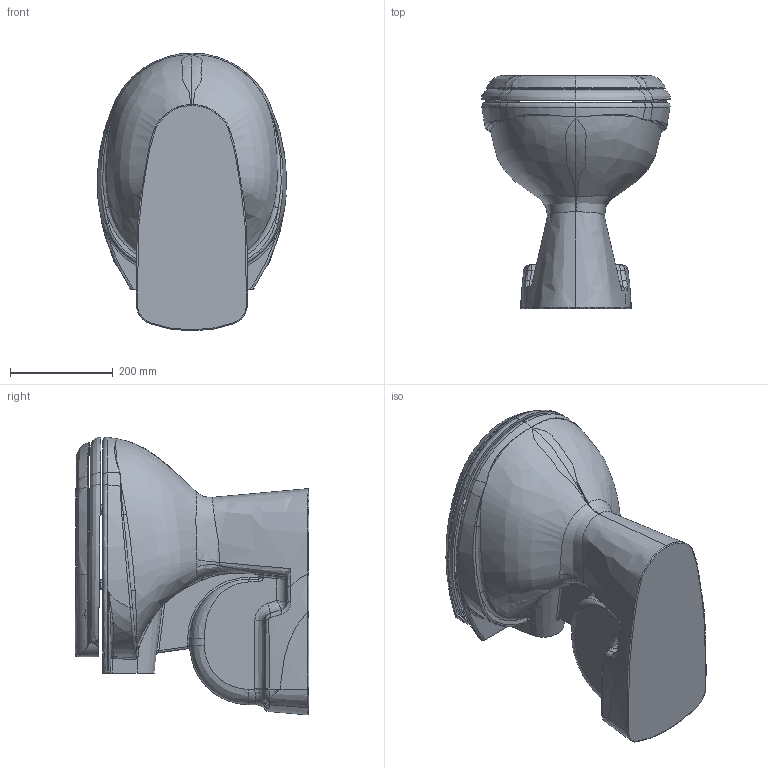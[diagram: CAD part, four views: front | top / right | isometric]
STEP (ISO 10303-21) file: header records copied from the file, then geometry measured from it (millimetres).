
FILE_DESCRIPTION (( 'STEP AP203' ), '1' );
FILE_NAME ('tp340+kc3016.STEP', '2018-03-10T08:02:07', ( '' ), ( '' ), 'SwSTEP 2.0', 'SolidWorks 2018', '' );
FILE_SCHEMA (( 'CONFIG_CONTROL_DESIGN' ));
Length unit declared in the file: millimetre
Products named in the file (1): tp340+kc3016
Bounding box: 367.71 x 453.73 x 540.03 mm (x, y, z)
Volume: 19086655.3 mm3; surface area: 1532456.9 mm2
Topology: 3 solids, 4 shells, 600 faces, 1498 edges, 888 vertices
Faces by surface type: bspline 327, cylinder 107, plane 83, torus 64, cone 17, sphere 2
Entity records: 82511 total; most frequent: CARTESIAN_POINT 70869, ORIENTED_EDGE 2948, DIRECTION 1684, EDGE_CURVE 1474, VERTEX_POINT 888, B_SPLINE_CURVE_WITH_KNOTS 740, AXIS2_PLACEMENT_3D 708, EDGE_LOOP 608
